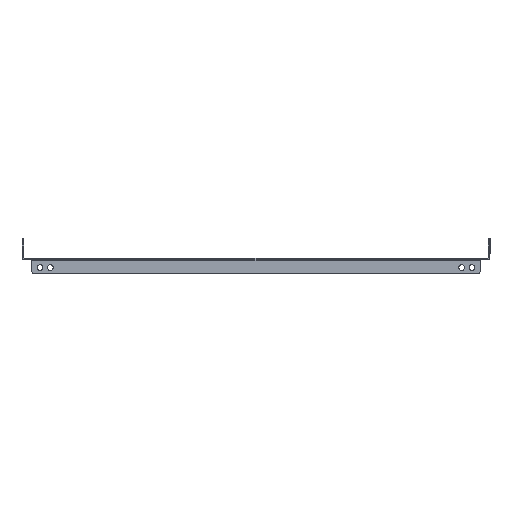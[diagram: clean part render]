
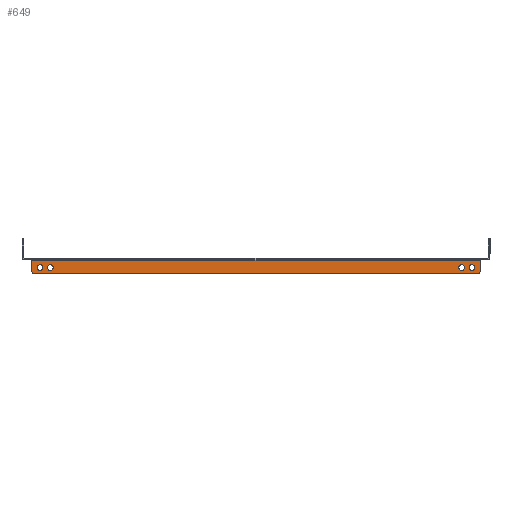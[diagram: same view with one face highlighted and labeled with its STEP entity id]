
A CAD part, left-side view. The second image highlights one B-rep face of the part: STEP entity #649.
In plain terms, the highlighted planar face has unit normal (-1, 0, 0).
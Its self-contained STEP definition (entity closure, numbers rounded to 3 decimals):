
#67 = EDGE_CURVE ( 'NONE', #4030, #276, #3112, .T. ) ;
#88 = CARTESIAN_POINT ( 'NONE',  ( -350., 250., -13. ) ) ;
#175 = CARTESIAN_POINT ( 'NONE',  ( -350., 272.5, 0. ) ) ;
#198 = CARTESIAN_POINT ( 'NONE',  ( -350., -250., -6. ) ) ;
#262 = EDGE_LOOP ( 'NONE', ( #1587, #1112 ) ) ;
#276 = VERTEX_POINT ( 'NONE', #2206 ) ;
#285 = DIRECTION ( 'NONE',  ( -1., 0., 0. ) ) ;
#343 = DIRECTION ( 'NONE',  ( -1., 0., 0. ) ) ;
#389 = CIRCLE ( 'NONE', #925, 3.5 ) ;
#410 = CARTESIAN_POINT ( 'NONE',  ( -350., -262.5, -9.5 ) ) ;
#437 = CIRCLE ( 'NONE', #848, 3.5 ) ;
#446 = CIRCLE ( 'NONE', #4164, 3.5 ) ;
#531 = FACE_BOUND ( 'NONE', #262, .T. ) ;
#538 = VERTEX_POINT ( 'NONE', #1027 ) ;
#598 = EDGE_CURVE ( 'NONE', #1474, #2615, #2468, .T. ) ;
#649 = ADVANCED_FACE ( 'NONE', ( #3562, #3477, #3832, #531, #1147 ), #4200, .T. ) ;
#725 = DIRECTION ( 'NONE',  ( 0., 0., 1. ) ) ;
#742 = ORIENTED_EDGE ( 'NONE', *, *, #2017, .F. ) ;
#768 = CARTESIAN_POINT ( 'NONE',  ( -350., 272.5, 0. ) ) ;
#773 = AXIS2_PLACEMENT_3D ( 'NONE', #175, #2200, #1880 ) ;
#845 = AXIS2_PLACEMENT_3D ( 'NONE', #2916, #1191, #3900 ) ;
#848 = AXIS2_PLACEMENT_3D ( 'NONE', #3016, #1755, #1692 ) ;
#863 = EDGE_LOOP ( 'NONE', ( #742, #4226 ) ) ;
#925 = AXIS2_PLACEMENT_3D ( 'NONE', #1451, #1820, #2854 ) ;
#978 = ORIENTED_EDGE ( 'NONE', *, *, #2742, .F. ) ;
#988 = DIRECTION ( 'NONE',  ( 0., 0., 1. ) ) ;
#1027 = CARTESIAN_POINT ( 'NONE',  ( -350., 250., -6. ) ) ;
#1076 = VERTEX_POINT ( 'NONE', #2460 ) ;
#1112 = ORIENTED_EDGE ( 'NONE', *, *, #2512, .F. ) ;
#1124 = CARTESIAN_POINT ( 'NONE',  ( -350., -250., -9.5 ) ) ;
#1135 = ORIENTED_EDGE ( 'NONE', *, *, #2269, .F. ) ;
#1138 = ORIENTED_EDGE ( 'NONE', *, *, #3704, .F. ) ;
#1141 = CARTESIAN_POINT ( 'NONE',  ( -350., 272.5, -17. ) ) ;
#1147 = FACE_OUTER_BOUND ( 'NONE', #3988, .T. ) ;
#1186 = CARTESIAN_POINT ( 'NONE',  ( -350., 272.5, -14. ) ) ;
#1191 = DIRECTION ( 'NONE',  ( -1., 0., 0. ) ) ;
#1199 = VERTEX_POINT ( 'NONE', #1589 ) ;
#1207 = VECTOR ( 'NONE', #3563, 1000. ) ;
#1212 = AXIS2_PLACEMENT_3D ( 'NONE', #3057, #3730, #988 ) ;
#1226 = CIRCLE ( 'NONE', #3679, 3. ) ;
#1252 = CARTESIAN_POINT ( 'NONE',  ( -350., 272.5, -0.6 ) ) ;
#1275 = DIRECTION ( 'NONE',  ( 0., 0., 1. ) ) ;
#1447 = ORIENTED_EDGE ( 'NONE', *, *, #2077, .F. ) ;
#1451 = CARTESIAN_POINT ( 'NONE',  ( -350., -262.5, -9.5 ) ) ;
#1474 = VERTEX_POINT ( 'NONE', #2520 ) ;
#1542 = ORIENTED_EDGE ( 'NONE', *, *, #67, .F. ) ;
#1587 = ORIENTED_EDGE ( 'NONE', *, *, #1840, .F. ) ;
#1589 = CARTESIAN_POINT ( 'NONE',  ( -350., -272.5, -0.6 ) ) ;
#1655 = CARTESIAN_POINT ( 'NONE',  ( -350., -262.5, -13. ) ) ;
#1669 = DIRECTION ( 'NONE',  ( 0., 0., -1. ) ) ;
#1692 = DIRECTION ( 'NONE',  ( 0., 0., -1. ) ) ;
#1695 = ORIENTED_EDGE ( 'NONE', *, *, #598, .T. ) ;
#1755 = DIRECTION ( 'NONE',  ( -1., 0., 0. ) ) ;
#1781 = CARTESIAN_POINT ( 'NONE',  ( -350., -269.5, -14. ) ) ;
#1786 = DIRECTION ( 'NONE',  ( 0., 0., 1. ) ) ;
#1794 = CARTESIAN_POINT ( 'NONE',  ( -350., -250., -13. ) ) ;
#1820 = DIRECTION ( 'NONE',  ( -1., 0., 0. ) ) ;
#1840 = EDGE_CURVE ( 'NONE', #2923, #3341, #2469, .T. ) ;
#1880 = DIRECTION ( 'NONE',  ( 0., 0., 1. ) ) ;
#1899 = CARTESIAN_POINT ( 'NONE',  ( -350., -262.5, -6. ) ) ;
#1970 = ORIENTED_EDGE ( 'NONE', *, *, #2145, .T. ) ;
#1987 = AXIS2_PLACEMENT_3D ( 'NONE', #3287, #285, #2593 ) ;
#2017 = EDGE_CURVE ( 'NONE', #3669, #4304, #437, .T. ) ;
#2075 = VERTEX_POINT ( 'NONE', #88 ) ;
#2077 = EDGE_CURVE ( 'NONE', #1199, #2615, #3871, .T. ) ;
#2145 = EDGE_CURVE ( 'NONE', #1199, #276, #4266, .T. ) ;
#2200 = DIRECTION ( 'NONE',  ( -1., 0., 0. ) ) ;
#2206 = CARTESIAN_POINT ( 'NONE',  ( -350., 272.5, -0.6 ) ) ;
#2269 = EDGE_CURVE ( 'NONE', #1474, #1076, #4152, .T. ) ;
#2295 = EDGE_LOOP ( 'NONE', ( #2883, #978 ) ) ;
#2342 = VERTEX_POINT ( 'NONE', #1899 ) ;
#2392 = CARTESIAN_POINT ( 'NONE',  ( -350., -272.5, -14. ) ) ;
#2433 = ORIENTED_EDGE ( 'NONE', *, *, #3857, .T. ) ;
#2436 = CARTESIAN_POINT ( 'NONE',  ( -350., 250., -9.5 ) ) ;
#2460 = CARTESIAN_POINT ( 'NONE',  ( -350., 269.5, -17. ) ) ;
#2468 = CIRCLE ( 'NONE', #2823, 3. ) ;
#2469 = CIRCLE ( 'NONE', #845, 3.5 ) ;
#2486 = DIRECTION ( 'NONE',  ( 0., 1., 0. ) ) ;
#2512 = EDGE_CURVE ( 'NONE', #3341, #2923, #4016, .T. ) ;
#2520 = CARTESIAN_POINT ( 'NONE',  ( -350., -269.5, -17. ) ) ;
#2586 = VERTEX_POINT ( 'NONE', #1655 ) ;
#2593 = DIRECTION ( 'NONE',  ( 0., 0., 1. ) ) ;
#2615 = VERTEX_POINT ( 'NONE', #2392 ) ;
#2630 = CARTESIAN_POINT ( 'NONE',  ( -350., 262.5, -13. ) ) ;
#2675 = VECTOR ( 'NONE', #1786, 1000. ) ;
#2742 = EDGE_CURVE ( 'NONE', #2075, #538, #446, .T. ) ;
#2767 = DIRECTION ( 'NONE',  ( -1., 0., 0. ) ) ;
#2794 = EDGE_LOOP ( 'NONE', ( #1138, #2869 ) ) ;
#2823 = AXIS2_PLACEMENT_3D ( 'NONE', #1781, #3128, #725 ) ;
#2830 = VECTOR ( 'NONE', #3316, 1000. ) ;
#2848 = CARTESIAN_POINT ( 'NONE',  ( -350., -272.5, -17. ) ) ;
#2854 = DIRECTION ( 'NONE',  ( 0., 0., -1. ) ) ;
#2869 = ORIENTED_EDGE ( 'NONE', *, *, #3615, .F. ) ;
#2883 = ORIENTED_EDGE ( 'NONE', *, *, #4073, .F. ) ;
#2911 = AXIS2_PLACEMENT_3D ( 'NONE', #410, #343, #1669 ) ;
#2916 = CARTESIAN_POINT ( 'NONE',  ( -350., 262.5, -9.5 ) ) ;
#2923 = VERTEX_POINT ( 'NONE', #3524 ) ;
#2950 = CARTESIAN_POINT ( 'NONE',  ( -350., 269.5, -14. ) ) ;
#3016 = CARTESIAN_POINT ( 'NONE',  ( -350., -250., -9.5 ) ) ;
#3057 = CARTESIAN_POINT ( 'NONE',  ( -350., 262.5, -9.5 ) ) ;
#3110 = VECTOR ( 'NONE', #2486, 1000. ) ;
#3112 = LINE ( 'NONE', #768, #2675 ) ;
#3128 = DIRECTION ( 'NONE',  ( -1., 0., 0. ) ) ;
#3211 = DIRECTION ( 'NONE',  ( -1., 0., 0. ) ) ;
#3287 = CARTESIAN_POINT ( 'NONE',  ( -350., 250., -9.5 ) ) ;
#3316 = DIRECTION ( 'NONE',  ( 0., 1., 0. ) ) ;
#3341 = VERTEX_POINT ( 'NONE', #2630 ) ;
#3398 = AXIS2_PLACEMENT_3D ( 'NONE', #1124, #3211, #3898 ) ;
#3466 = CIRCLE ( 'NONE', #2911, 3.5 ) ;
#3474 = CIRCLE ( 'NONE', #1987, 3.5 ) ;
#3477 = FACE_BOUND ( 'NONE', #863, .T. ) ;
#3524 = CARTESIAN_POINT ( 'NONE',  ( -350., 262.5, -6. ) ) ;
#3562 = FACE_BOUND ( 'NONE', #2794, .T. ) ;
#3563 = DIRECTION ( 'NONE',  ( 0., 0., -1. ) ) ;
#3615 = EDGE_CURVE ( 'NONE', #2586, #2342, #3466, .T. ) ;
#3669 = VERTEX_POINT ( 'NONE', #198 ) ;
#3679 = AXIS2_PLACEMENT_3D ( 'NONE', #2950, #4290, #1275 ) ;
#3704 = EDGE_CURVE ( 'NONE', #2342, #2586, #389, .T. ) ;
#3722 = EDGE_CURVE ( 'NONE', #4304, #3669, #3753, .T. ) ;
#3730 = DIRECTION ( 'NONE',  ( -1., 0., 0. ) ) ;
#3753 = CIRCLE ( 'NONE', #3398, 3.5 ) ;
#3832 = FACE_BOUND ( 'NONE', #2295, .T. ) ;
#3857 = EDGE_CURVE ( 'NONE', #4030, #1076, #1226, .T. ) ;
#3871 = LINE ( 'NONE', #2848, #1207 ) ;
#3898 = DIRECTION ( 'NONE',  ( 0., 0., -1. ) ) ;
#3900 = DIRECTION ( 'NONE',  ( 0., 0., 1. ) ) ;
#3988 = EDGE_LOOP ( 'NONE', ( #1135, #1695, #1447, #1970, #1542, #2433 ) ) ;
#4016 = CIRCLE ( 'NONE', #1212, 3.5 ) ;
#4030 = VERTEX_POINT ( 'NONE', #1186 ) ;
#4073 = EDGE_CURVE ( 'NONE', #538, #2075, #3474, .T. ) ;
#4105 = DIRECTION ( 'NONE',  ( 0., 0., 1. ) ) ;
#4152 = LINE ( 'NONE', #1141, #3110 ) ;
#4164 = AXIS2_PLACEMENT_3D ( 'NONE', #2436, #2767, #4105 ) ;
#4200 = PLANE ( 'NONE',  #773 ) ;
#4226 = ORIENTED_EDGE ( 'NONE', *, *, #3722, .F. ) ;
#4266 = LINE ( 'NONE', #1252, #2830 ) ;
#4290 = DIRECTION ( 'NONE',  ( -1., 0., 0. ) ) ;
#4304 = VERTEX_POINT ( 'NONE', #1794 ) ;
